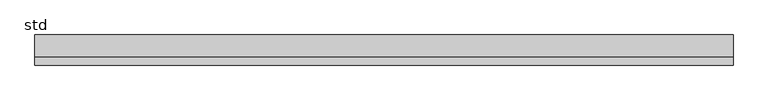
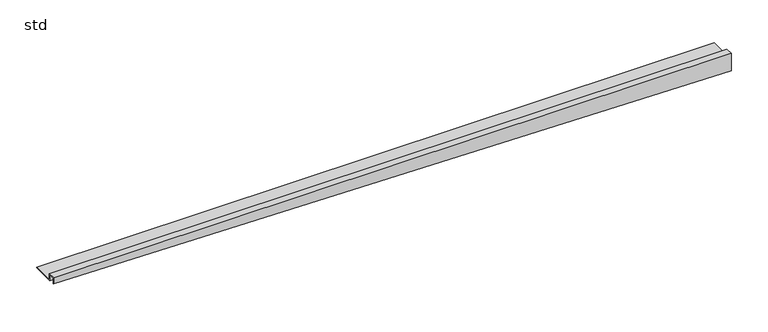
"""IFC4 building model written with IfcOpenShell, lengths in millimetres: sanitary terminal geometry, ZZZ_do not use_PF_ST_showerstep_ACO : std."""

from ifc_helpers import new_model, si_unit, origin, place, context, project, spatial, faceted_brep, source, transform, mapped, element, save


def std_fc5748fb(model_context):
    return source(origin(), model_context, "Body", "Brep", [
        faceted_brep([(0.0, 12.0076915, -10.0), (0.0, 46.0004219, -10.0), (0.0, 46.0004219, -11.0), (0.0, 11.0004219, -11.0), (0.0, 11.0004219, -1.0), (0.0, 1.0, -1.0), (0.0, 1.0, -10.0), (0.0, 0.0, -10.0), (0.0, 0.0, 0.0), (0.0, 12.0076915, 0.0), (1066.0, 12.0076915, 0.0), (1066.0, 12.0076915, -10.0), (1066.0, 0.0, 0.0), (1066.0, 0.0, -28.6013423), (1066.0, 1.0, -28.6013423), (1066.0, 1.0, -1.0), (1066.0, 11.0004219, -1.0), (1066.0, 11.0004219, -11.0), (1066.0, 46.0004219, -11.0), (1066.0, 46.0004219, -10.0)], [[[0, 1, 2, 3, 4, 5, 6, 7, 8, 9]], [[0, 9, 10, 11]], [[9, 8, 12, 10]], [[8, 7, 13, 12]], [[7, 6, 14, 13]], [[6, 5, 15, 14]], [[5, 4, 16, 15]], [[4, 3, 17, 16]], [[3, 2, 18, 17]], [[2, 1, 19, 18]], [[1, 0, 11, 19]], [[11, 10, 12, 13, 14, 15, 16, 17, 18, 19]]]),
    ])


if __name__ == "__main__":
    model = new_model("IFC4")
    model_context = context("Model", 3, world=origin())
    ifc_project = project(units=[si_unit("LENGTHUNIT", "METRE", prefix="MILLI")], contexts=[model_context])
    site = spatial("IfcSite", under=ifc_project)
    building = spatial("IfcBuilding", under=site)
    placement = place(None, origin())
    std_shape = std_fc5748fb(model_context)
    element("IfcSanitaryTerminal", 1, ObjectType="ZZZ_do not use_PF_ST_showerstep_ACO : std", at=placement, inside=building, context=model_context, shape_type="MappedRepresentation", body=[
        mapped(std_shape, transform((0.0, 0.0, 0.0), x_axis=(1.0, 0.0, 0.0), y_axis=(0.0, 1.0, 0.0), z_axis=(0.0, 0.0, 1.0))),
    ])
    save(model, "model.ifc")
